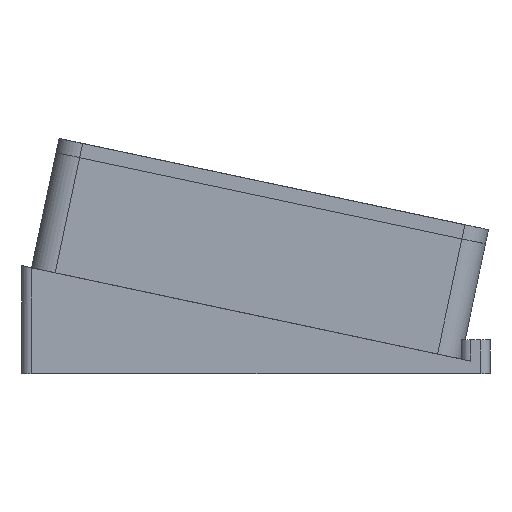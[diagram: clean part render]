
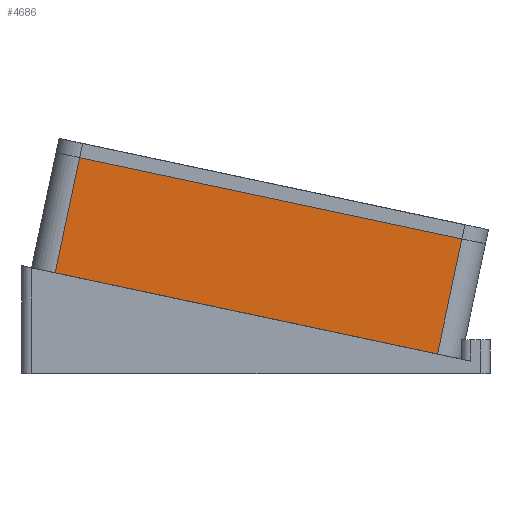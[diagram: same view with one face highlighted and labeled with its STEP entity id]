
A CAD part, left-side view. The second image highlights one B-rep face of the part: STEP entity #4686.
In plain terms, the highlighted planar face has unit normal (-1, 0, 0).
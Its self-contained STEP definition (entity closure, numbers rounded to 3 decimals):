
#1770 = PLANE('',#1771);
#1771 = AXIS2_PLACEMENT_3D('',#1772,#1773,#1774);
#1772 = CARTESIAN_POINT('',(106.5,45.5,0.));
#1773 = DIRECTION('',(0.,0.,1.));
#1774 = DIRECTION('',(1.,0.,-0.));
#1798 = CYLINDRICAL_SURFACE('',#1799,5.);
#1799 = AXIS2_PLACEMENT_3D('',#1800,#1801,#1802);
#1800 = CARTESIAN_POINT('',(5.,5.,0.));
#1801 = DIRECTION('',(0.,0.,1.));
#1802 = DIRECTION('',(0.,-1.,0.));
#1826 = PLANE('',#1827);
#1827 = AXIS2_PLACEMENT_3D('',#1828,#1829,#1830);
#1828 = CARTESIAN_POINT('',(106.5,45.5,24.4));
#1829 = DIRECTION('',(0.,0.,1.));
#1830 = DIRECTION('',(1.,0.,-0.));
#1978 = VERTEX_POINT('',#1979);
#1979 = CARTESIAN_POINT('',(0.,86.,0.));
#1994 = CYLINDRICAL_SURFACE('',#1995,5.);
#1995 = AXIS2_PLACEMENT_3D('',#1996,#1997,#1998);
#1996 = CARTESIAN_POINT('',(5.,86.,0.));
#1997 = DIRECTION('',(0.,0.,1.));
#1998 = DIRECTION('',(-0.,1.,0.));
#2006 = EDGE_CURVE('',#1978,#2007,#2009,.T.);
#2007 = VERTEX_POINT('',#2008);
#2008 = CARTESIAN_POINT('',(0.,5.,0.));
#2009 = SURFACE_CURVE('',#2010,(#2014,#2021),.PCURVE_S1.);
#2010 = LINE('',#2011,#2012);
#2011 = CARTESIAN_POINT('',(0.,91.,0.));
#2012 = VECTOR('',#2013,1.);
#2013 = DIRECTION('',(0.,-1.,0.));
#2014 = PCURVE('',#1770,#2015);
#2015 = DEFINITIONAL_REPRESENTATION('',(#2016),#2020);
#2016 = LINE('',#2017,#2018);
#2017 = CARTESIAN_POINT('',(-106.5,45.5));
#2018 = VECTOR('',#2019,1.);
#2019 = DIRECTION('',(0.,-1.));
#2020 = ( GEOMETRIC_REPRESENTATION_CONTEXT(2) 
PARAMETRIC_REPRESENTATION_CONTEXT() REPRESENTATION_CONTEXT('2D SPACE',''
  ) );
#2021 = PCURVE('',#2022,#2027);
#2022 = PLANE('',#2023);
#2023 = AXIS2_PLACEMENT_3D('',#2024,#2025,#2026);
#2024 = CARTESIAN_POINT('',(0.,91.,0.));
#2025 = DIRECTION('',(1.,0.,-0.));
#2026 = DIRECTION('',(0.,-1.,0.));
#2027 = DEFINITIONAL_REPRESENTATION('',(#2028),#2032);
#2028 = LINE('',#2029,#2030);
#2029 = CARTESIAN_POINT('',(0.,0.));
#2030 = VECTOR('',#2031,1.);
#2031 = DIRECTION('',(1.,0.));
#2032 = ( GEOMETRIC_REPRESENTATION_CONTEXT(2) 
PARAMETRIC_REPRESENTATION_CONTEXT() REPRESENTATION_CONTEXT('2D SPACE',''
  ) );
#4244 = EDGE_CURVE('',#2007,#4245,#4247,.T.);
#4245 = VERTEX_POINT('',#4246);
#4246 = CARTESIAN_POINT('',(0.,5.,24.4));
#4247 = SURFACE_CURVE('',#4248,(#4252,#4259),.PCURVE_S1.);
#4248 = LINE('',#4249,#4250);
#4249 = CARTESIAN_POINT('',(0.,5.,0.));
#4250 = VECTOR('',#4251,1.);
#4251 = DIRECTION('',(0.,0.,1.));
#4252 = PCURVE('',#1798,#4253);
#4253 = DEFINITIONAL_REPRESENTATION('',(#4254),#4258);
#4254 = LINE('',#4255,#4256);
#4255 = CARTESIAN_POINT('',(-1.571,0.));
#4256 = VECTOR('',#4257,1.);
#4257 = DIRECTION('',(-0.,1.));
#4258 = ( GEOMETRIC_REPRESENTATION_CONTEXT(2) 
PARAMETRIC_REPRESENTATION_CONTEXT() REPRESENTATION_CONTEXT('2D SPACE',''
  ) );
#4259 = PCURVE('',#2022,#4260);
#4260 = DEFINITIONAL_REPRESENTATION('',(#4261),#4265);
#4261 = LINE('',#4262,#4263);
#4262 = CARTESIAN_POINT('',(86.,-0.));
#4263 = VECTOR('',#4264,1.);
#4264 = DIRECTION('',(0.,-1.));
#4265 = ( GEOMETRIC_REPRESENTATION_CONTEXT(2) 
PARAMETRIC_REPRESENTATION_CONTEXT() REPRESENTATION_CONTEXT('2D SPACE',''
  ) );
#4420 = VERTEX_POINT('',#4421);
#4421 = CARTESIAN_POINT('',(0.,86.,24.4));
#4443 = EDGE_CURVE('',#4420,#4245,#4444,.T.);
#4444 = SURFACE_CURVE('',#4445,(#4449,#4456),.PCURVE_S1.);
#4445 = LINE('',#4446,#4447);
#4446 = CARTESIAN_POINT('',(0.,91.,24.4));
#4447 = VECTOR('',#4448,1.);
#4448 = DIRECTION('',(0.,-1.,0.));
#4449 = PCURVE('',#1826,#4450);
#4450 = DEFINITIONAL_REPRESENTATION('',(#4451),#4455);
#4451 = LINE('',#4452,#4453);
#4452 = CARTESIAN_POINT('',(-106.5,45.5));
#4453 = VECTOR('',#4454,1.);
#4454 = DIRECTION('',(0.,-1.));
#4455 = ( GEOMETRIC_REPRESENTATION_CONTEXT(2) 
PARAMETRIC_REPRESENTATION_CONTEXT() REPRESENTATION_CONTEXT('2D SPACE',''
  ) );
#4456 = PCURVE('',#2022,#4457);
#4457 = DEFINITIONAL_REPRESENTATION('',(#4458),#4462);
#4458 = LINE('',#4459,#4460);
#4459 = CARTESIAN_POINT('',(0.,-24.4));
#4460 = VECTOR('',#4461,1.);
#4461 = DIRECTION('',(1.,0.));
#4462 = ( GEOMETRIC_REPRESENTATION_CONTEXT(2) 
PARAMETRIC_REPRESENTATION_CONTEXT() REPRESENTATION_CONTEXT('2D SPACE',''
  ) );
#4686 = ADVANCED_FACE('',(#4687),#2022,.F.);
#4687 = FACE_BOUND('',#4688,.F.);
#4688 = EDGE_LOOP('',(#4689,#4690,#4711,#4712));
#4689 = ORIENTED_EDGE('',*,*,#2006,.F.);
#4690 = ORIENTED_EDGE('',*,*,#4691,.T.);
#4691 = EDGE_CURVE('',#1978,#4420,#4692,.T.);
#4692 = SURFACE_CURVE('',#4693,(#4697,#4704),.PCURVE_S1.);
#4693 = LINE('',#4694,#4695);
#4694 = CARTESIAN_POINT('',(0.,86.,0.));
#4695 = VECTOR('',#4696,1.);
#4696 = DIRECTION('',(0.,0.,1.));
#4697 = PCURVE('',#2022,#4698);
#4698 = DEFINITIONAL_REPRESENTATION('',(#4699),#4703);
#4699 = LINE('',#4700,#4701);
#4700 = CARTESIAN_POINT('',(5.,-0.));
#4701 = VECTOR('',#4702,1.);
#4702 = DIRECTION('',(0.,-1.));
#4703 = ( GEOMETRIC_REPRESENTATION_CONTEXT(2) 
PARAMETRIC_REPRESENTATION_CONTEXT() REPRESENTATION_CONTEXT('2D SPACE',''
  ) );
#4704 = PCURVE('',#1994,#4705);
#4705 = DEFINITIONAL_REPRESENTATION('',(#4706),#4710);
#4706 = LINE('',#4707,#4708);
#4707 = CARTESIAN_POINT('',(1.571,0.));
#4708 = VECTOR('',#4709,1.);
#4709 = DIRECTION('',(0.,1.));
#4710 = ( GEOMETRIC_REPRESENTATION_CONTEXT(2) 
PARAMETRIC_REPRESENTATION_CONTEXT() REPRESENTATION_CONTEXT('2D SPACE',''
  ) );
#4711 = ORIENTED_EDGE('',*,*,#4443,.T.);
#4712 = ORIENTED_EDGE('',*,*,#4244,.F.);
